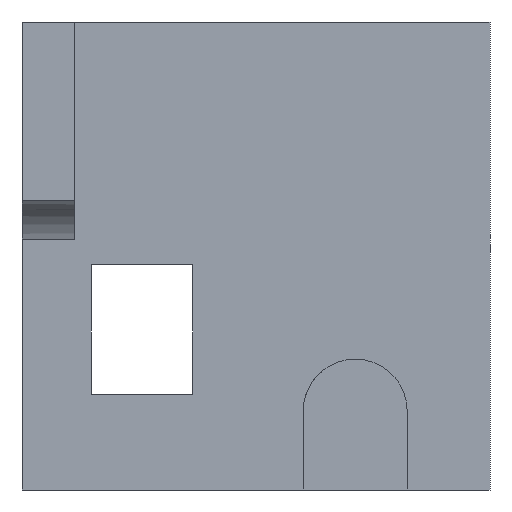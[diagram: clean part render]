
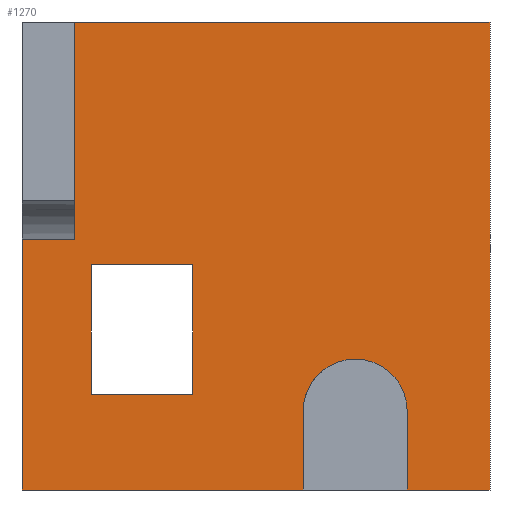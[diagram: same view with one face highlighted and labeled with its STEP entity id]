
A CAD part, front view. The second image highlights one B-rep face of the part: STEP entity #1270.
In plain terms, the highlighted planar face has unit normal (0, -1, 0).
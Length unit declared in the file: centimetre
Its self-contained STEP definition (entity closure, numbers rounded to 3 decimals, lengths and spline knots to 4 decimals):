
#46 = CARTESIAN_POINT ( 'NONE',  ( 0., 0., 0. ) ) ;
#53 = LINE ( 'NONE', #224, #704 ) ;
#59 = EDGE_CURVE ( 'NONE', #861, #1515, #223, .T. ) ;
#61 = CARTESIAN_POINT ( 'NONE',  ( 823.1377, 0., 168.5832 ) ) ;
#87 = VECTOR ( 'NONE', #1406, 100. ) ;
#93 = VECTOR ( 'NONE', #1110, 100. ) ;
#121 = VECTOR ( 'NONE', #1229, 100. ) ;
#132 = CARTESIAN_POINT ( 'NONE',  ( 148.2357, 0., 204.214 ) ) ;
#165 = EDGE_LOOP ( 'NONE', ( #949, #220, #1669, #824 ) ) ;
#166 = ORIENTED_EDGE ( 'NONE', *, *, #1671, .F. ) ;
#183 = ORIENTED_EDGE ( 'NONE', *, *, #1205, .F. ) ;
#191 = LINE ( 'NONE', #61, #93 ) ;
#194 = DIRECTION ( 'NONE',  ( 0., 0., -1. ) ) ;
#196 = LINE ( 'NONE', #717, #363 ) ;
#210 = DIRECTION ( 'NONE',  ( 0., 1., 0. ) ) ;
#220 = ORIENTED_EDGE ( 'NONE', *, *, #368, .F. ) ;
#223 = LINE ( 'NONE', #1413, #785 ) ;
#224 = CARTESIAN_POINT ( 'NONE',  ( 0., 0., 534.8021 ) ) ;
#231 = ORIENTED_EDGE ( 'NONE', *, *, #59, .F. ) ;
#276 = DIRECTION ( 'NONE',  ( 1., 0., 0. ) ) ;
#284 = ORIENTED_EDGE ( 'NONE', *, *, #1709, .F. ) ;
#294 = CARTESIAN_POINT ( 'NONE',  ( 0., 0., 0. ) ) ;
#296 = LINE ( 'NONE', #46, #1623 ) ;
#321 = CARTESIAN_POINT ( 'NONE',  ( 148.2357, 0., 481.7332 ) ) ;
#326 = DIRECTION ( 'NONE',  ( 0., 0., 1. ) ) ;
#330 = AXIS2_PLACEMENT_3D ( 'NONE', #1279, #210, #326 ) ;
#352 = LINE ( 'NONE', #879, #87 ) ;
#360 = CARTESIAN_POINT ( 'NONE',  ( 113.1461, 0., 534.8021 ) ) ;
#363 = VECTOR ( 'NONE', #972, 100. ) ;
#368 = EDGE_CURVE ( 'NONE', #377, #1284, #1095, .T. ) ;
#377 = VERTEX_POINT ( 'NONE', #321 ) ;
#438 = DIRECTION ( 'NONE',  ( 1., 0., 0. ) ) ;
#459 = DIRECTION ( 'NONE',  ( 1., 0., 0. ) ) ;
#465 = CARTESIAN_POINT ( 'NONE',  ( 823.1377, 0., 0. ) ) ;
#482 = FACE_OUTER_BOUND ( 'NONE', #1133, .T. ) ;
#489 = LINE ( 'NONE', #1239, #624 ) ;
#493 = LINE ( 'NONE', #1408, #677 ) ;
#563 = LINE ( 'NONE', #1631, #1462 ) ;
#568 = VERTEX_POINT ( 'NONE', #620 ) ;
#572 = DIRECTION ( 'NONE',  ( 0., 0., -1. ) ) ;
#606 = VERTEX_POINT ( 'NONE', #465 ) ;
#619 = DIRECTION ( 'NONE',  ( 0., 0., -1. ) ) ;
#620 = CARTESIAN_POINT ( 'NONE',  ( 600.7249, 0., 168.5832 ) ) ;
#621 = CARTESIAN_POINT ( 'NONE',  ( 600.7249, 0., 0. ) ) ;
#624 = VECTOR ( 'NONE', #619, 100. ) ;
#671 = VECTOR ( 'NONE', #194, 100. ) ;
#677 = VECTOR ( 'NONE', #733, 100. ) ;
#704 = VECTOR ( 'NONE', #459, 100. ) ;
#709 = CARTESIAN_POINT ( 'NONE',  ( 364.8412, 0., 481.7332 ) ) ;
#710 = CARTESIAN_POINT ( 'NONE',  ( 600.7249, 0., 0. ) ) ;
#712 = ORIENTED_EDGE ( 'NONE', *, *, #847, .T. ) ;
#717 = CARTESIAN_POINT ( 'NONE',  ( 148.2357, 0., 481.7332 ) ) ;
#723 = CARTESIAN_POINT ( 'NONE',  ( 823.1377, 0., 168.5832 ) ) ;
#725 = EDGE_CURVE ( 'NONE', #790, #1142, #493, .T. ) ;
#733 = DIRECTION ( 'NONE',  ( 0., 0., 1. ) ) ;
#740 = DIRECTION ( 'NONE',  ( 0., 0., 1. ) ) ;
#747 = CARTESIAN_POINT ( 'NONE',  ( 113.1461, 0., 1000. ) ) ;
#757 = CARTESIAN_POINT ( 'NONE',  ( 113.1461, 0., 534.8021 ) ) ;
#785 = VECTOR ( 'NONE', #1276, 100. ) ;
#790 = VERTEX_POINT ( 'NONE', #1444 ) ;
#814 = ORIENTED_EDGE ( 'NONE', *, *, #1120, .T. ) ;
#824 = ORIENTED_EDGE ( 'NONE', *, *, #725, .F. ) ;
#830 = VERTEX_POINT ( 'NONE', #757 ) ;
#847 = EDGE_CURVE ( 'NONE', #1505, #1260, #352, .T. ) ;
#849 = LINE ( 'NONE', #710, #121 ) ;
#861 = VERTEX_POINT ( 'NONE', #747 ) ;
#879 = CARTESIAN_POINT ( 'NONE',  ( 0., 0., 0. ) ) ;
#899 = EDGE_CURVE ( 'NONE', #568, #1260, #849, .T. ) ;
#938 = CIRCLE ( 'NONE', #1322, 111.2064 ) ;
#949 = ORIENTED_EDGE ( 'NONE', *, *, #1452, .F. ) ;
#954 = VERTEX_POINT ( 'NONE', #1590 ) ;
#972 = DIRECTION ( 'NONE',  ( -1., 0., 0. ) ) ;
#979 = DIRECTION ( 'NONE',  ( 0., 0., 1. ) ) ;
#1077 = CARTESIAN_POINT ( 'NONE',  ( 1000., 0., 0. ) ) ;
#1090 = EDGE_CURVE ( 'NONE', #954, #1505, #563, .T. ) ;
#1095 = LINE ( 'NONE', #1362, #671 ) ;
#1096 = CARTESIAN_POINT ( 'NONE',  ( 711.9313, 0., 168.5832 ) ) ;
#1098 = VERTEX_POINT ( 'NONE', #1077 ) ;
#1110 = DIRECTION ( 'NONE',  ( 0., 0., 1. ) ) ;
#1119 = CARTESIAN_POINT ( 'NONE',  ( 148.2357, 0., 204.214 ) ) ;
#1120 = EDGE_CURVE ( 'NONE', #606, #1098, #296, .T. ) ;
#1121 = EDGE_CURVE ( 'NONE', #1142, #377, #196, .T. ) ;
#1133 = EDGE_LOOP ( 'NONE', ( #712, #1141, #183, #166, #814, #1158, #231, #1628, #284, #1409 ) ) ;
#1141 = ORIENTED_EDGE ( 'NONE', *, *, #899, .F. ) ;
#1142 = VERTEX_POINT ( 'NONE', #709 ) ;
#1158 = ORIENTED_EDGE ( 'NONE', *, *, #1649, .F. ) ;
#1159 = VERTEX_POINT ( 'NONE', #723 ) ;
#1205 = EDGE_CURVE ( 'NONE', #1159, #568, #938, .T. ) ;
#1207 = CARTESIAN_POINT ( 'NONE',  ( 1000., 0., 1000. ) ) ;
#1220 = DIRECTION ( 'NONE',  ( 0., -1., 0. ) ) ;
#1229 = DIRECTION ( 'NONE',  ( 0., 0., -1. ) ) ;
#1239 = CARTESIAN_POINT ( 'NONE',  ( 1000., 0., 1000. ) ) ;
#1244 = VECTOR ( 'NONE', #740, 100. ) ;
#1254 = LINE ( 'NONE', #360, #1244 ) ;
#1260 = VERTEX_POINT ( 'NONE', #621 ) ;
#1270 = ADVANCED_FACE ( 'NONE', ( #1508, #482 ), #1404, .F. ) ;
#1276 = DIRECTION ( 'NONE',  ( 1., 0., 0. ) ) ;
#1279 = CARTESIAN_POINT ( 'NONE',  ( 0., 0., 1000. ) ) ;
#1284 = VERTEX_POINT ( 'NONE', #1119 ) ;
#1289 = EDGE_CURVE ( 'NONE', #830, #861, #1254, .T. ) ;
#1322 = AXIS2_PLACEMENT_3D ( 'NONE', #1096, #1220, #979 ) ;
#1356 = VECTOR ( 'NONE', #276, 100. ) ;
#1362 = CARTESIAN_POINT ( 'NONE',  ( 148.2357, 0., 204.214 ) ) ;
#1404 = PLANE ( 'NONE',  #330 ) ;
#1406 = DIRECTION ( 'NONE',  ( 1., 0., 0. ) ) ;
#1408 = CARTESIAN_POINT ( 'NONE',  ( 364.8412, 0., 204.214 ) ) ;
#1409 = ORIENTED_EDGE ( 'NONE', *, *, #1090, .T. ) ;
#1413 = CARTESIAN_POINT ( 'NONE',  ( 0., 0., 1000. ) ) ;
#1444 = CARTESIAN_POINT ( 'NONE',  ( 364.8412, 0., 204.214 ) ) ;
#1452 = EDGE_CURVE ( 'NONE', #1284, #790, #1555, .T. ) ;
#1462 = VECTOR ( 'NONE', #572, 100. ) ;
#1505 = VERTEX_POINT ( 'NONE', #294 ) ;
#1508 = FACE_BOUND ( 'NONE', #165, .T. ) ;
#1515 = VERTEX_POINT ( 'NONE', #1207 ) ;
#1555 = LINE ( 'NONE', #132, #1356 ) ;
#1590 = CARTESIAN_POINT ( 'NONE',  ( 0., 0., 534.8021 ) ) ;
#1623 = VECTOR ( 'NONE', #438, 100. ) ;
#1628 = ORIENTED_EDGE ( 'NONE', *, *, #1289, .F. ) ;
#1631 = CARTESIAN_POINT ( 'NONE',  ( 0., 0., 1000. ) ) ;
#1649 = EDGE_CURVE ( 'NONE', #1515, #1098, #489, .T. ) ;
#1669 = ORIENTED_EDGE ( 'NONE', *, *, #1121, .F. ) ;
#1671 = EDGE_CURVE ( 'NONE', #606, #1159, #191, .T. ) ;
#1709 = EDGE_CURVE ( 'NONE', #954, #830, #53, .T. ) ;
